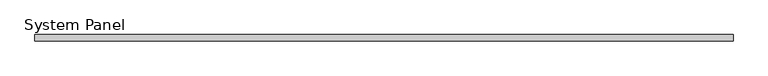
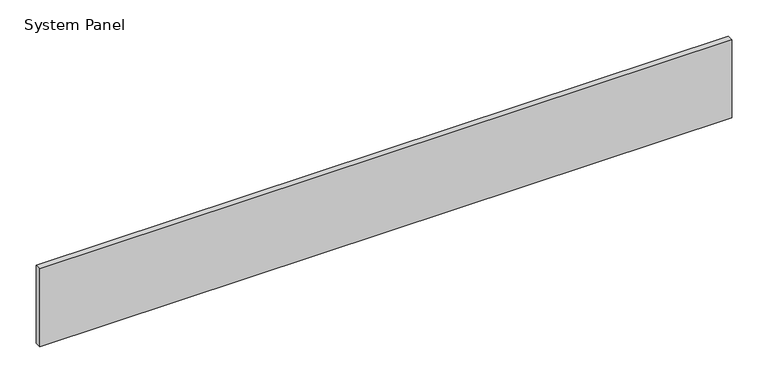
"""IFC4 building model written with IfcOpenShell, lengths in millimetres: plate geometry, System Panel : VACÍO."""

from ifc_helpers import new_model, si_unit, origin, origin_with_axes, place, context, project, spatial, polyline, outline, extrude, source, transform, mapped, element, save


def system_panel_ae9d9fd1(model_context):
    return source(origin(), model_context, "Body", "SweptSolid", [
        extrude(outline(polyline([(554.2609662, -5.0), (-554.2609662, -5.0), (-554.2609662, 5.0), (554.2609662, 5.0), (554.2609662, -5.0)])), origin_with_axes(), (0.0, 0.0, 1.0), 132.0338449),
    ])


if __name__ == "__main__":
    model = new_model("IFC4")
    model_context = context("Model", 3, world=origin())
    ifc_project = project(units=[si_unit("LENGTHUNIT", "METRE", prefix="MILLI")], contexts=[model_context])
    site = spatial("IfcSite", under=ifc_project)
    building = spatial("IfcBuilding", under=site)
    placement = place(None, origin())
    system_panel_shape = system_panel_ae9d9fd1(model_context)
    element("IfcPlate", 1, ObjectType="System Panel : VACÍO", at=placement, inside=building, context=model_context, shape_type="MappedRepresentation", body=[
        mapped(system_panel_shape, transform((0.0, 0.0, 0.0), x_axis=(1.0, 0.0, 0.0), y_axis=(0.0, 1.0, 0.0), z_axis=(0.0, 0.0, 1.0))),
    ])
    save(model, "model.ifc")
